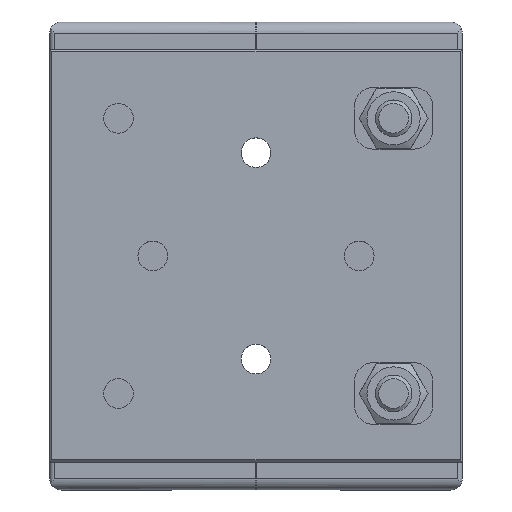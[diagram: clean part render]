
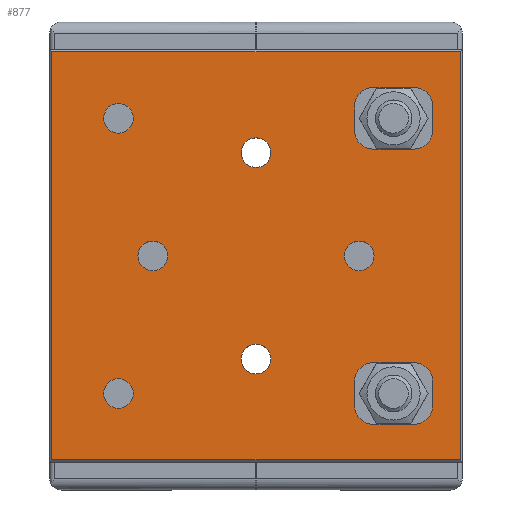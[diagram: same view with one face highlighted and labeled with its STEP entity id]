
A CAD part, top view. The second image highlights one B-rep face of the part: STEP entity #877.
In plain terms, the highlighted planar face has unit normal (0, 0, 1).
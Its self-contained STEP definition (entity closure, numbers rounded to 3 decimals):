
#229=CARTESIAN_POINT('',(34.5,-23.3,19.1));
#230=VERTEX_POINT('',#229);
#231=CARTESIAN_POINT('',(38.5,-27.3,19.1));
#232=VERTEX_POINT('',#231);
#233=CARTESIAN_POINT('',(34.5,-27.3,19.1));
#234=DIRECTION('',(0.0,0.0,1.0));
#235=DIRECTION('',(-1.0,0.0,0.0));
#236=AXIS2_PLACEMENT_3D('',#233,#234,#235);
#237=CIRCLE('',#236,4.0);
#238=EDGE_CURVE('',#230,#232,#237,.F.);
#271=CARTESIAN_POINT('',(38.5,-32.7,19.1));
#272=VERTEX_POINT('',#271);
#273=CARTESIAN_POINT('',(38.5,-27.3,19.1));
#274=DIRECTION('',(0.0,-1.0,0.0));
#275=VECTOR('',#274,5.4);
#276=LINE('',#273,#275);
#277=EDGE_CURVE('',#232,#272,#276,.T.);
#302=CARTESIAN_POINT('',(34.5,-36.7,19.1));
#303=VERTEX_POINT('',#302);
#304=CARTESIAN_POINT('',(34.5,-32.7,19.1));
#305=DIRECTION('',(0.0,0.0,1.0));
#306=DIRECTION('',(-1.0,0.0,0.0));
#307=AXIS2_PLACEMENT_3D('',#304,#305,#306);
#308=CIRCLE('',#307,4.0);
#309=EDGE_CURVE('',#272,#303,#308,.F.);
#335=CARTESIAN_POINT('',(25.5,-36.7,19.1));
#336=VERTEX_POINT('',#335);
#337=CARTESIAN_POINT('',(21.5,-32.7,19.1));
#338=VERTEX_POINT('',#337);
#339=CARTESIAN_POINT('',(25.5,-32.7,19.1));
#340=DIRECTION('',(0.0,0.0,1.0));
#341=DIRECTION('',(-1.0,0.0,0.0));
#342=AXIS2_PLACEMENT_3D('',#339,#340,#341);
#343=CIRCLE('',#342,4.0);
#344=EDGE_CURVE('',#336,#338,#343,.F.);
#377=CARTESIAN_POINT('',(21.5,-27.3,19.1));
#378=VERTEX_POINT('',#377);
#379=CARTESIAN_POINT('',(21.5,-32.7,19.1));
#380=DIRECTION('',(0.0,1.0,0.0));
#381=VECTOR('',#380,5.4);
#382=LINE('',#379,#381);
#383=EDGE_CURVE('',#338,#378,#382,.T.);
#408=CARTESIAN_POINT('',(25.5,-23.3,19.1));
#409=VERTEX_POINT('',#408);
#410=CARTESIAN_POINT('',(25.5,-27.3,19.1));
#411=DIRECTION('',(0.0,0.0,1.0));
#412=DIRECTION('',(-1.0,0.0,0.0));
#413=AXIS2_PLACEMENT_3D('',#410,#411,#412);
#414=CIRCLE('',#413,4.0);
#415=EDGE_CURVE('',#378,#409,#414,.F.);
#462=CARTESIAN_POINT('',(38.5,27.3,19.1));
#463=VERTEX_POINT('',#462);
#464=CARTESIAN_POINT('',(34.5,23.3,19.1));
#465=VERTEX_POINT('',#464);
#466=CARTESIAN_POINT('',(34.5,27.3,19.1));
#467=DIRECTION('',(0.0,0.0,1.0));
#468=DIRECTION('',(-1.0,0.0,0.0));
#469=AXIS2_PLACEMENT_3D('',#466,#467,#468);
#470=CIRCLE('',#469,4.0);
#471=EDGE_CURVE('',#463,#465,#470,.F.);
#504=CARTESIAN_POINT('',(38.5,32.7,19.1));
#505=VERTEX_POINT('',#504);
#506=CARTESIAN_POINT('',(38.5,32.7,19.1));
#507=DIRECTION('',(0.0,-1.0,0.0));
#508=VECTOR('',#507,5.4);
#509=LINE('',#506,#508);
#510=EDGE_CURVE('',#505,#463,#509,.T.);
#556=CARTESIAN_POINT('',(34.5,36.7,19.1));
#557=VERTEX_POINT('',#556);
#558=CARTESIAN_POINT('',(34.5,32.7,19.1));
#559=DIRECTION('',(0.0,0.0,1.0));
#560=DIRECTION('',(-1.0,0.0,0.0));
#561=AXIS2_PLACEMENT_3D('',#558,#559,#560);
#562=CIRCLE('',#561,4.0);
#563=EDGE_CURVE('',#557,#505,#562,.F.);
#610=CARTESIAN_POINT('',(21.5,32.7,19.1));
#611=VERTEX_POINT('',#610);
#612=CARTESIAN_POINT('',(25.5,36.7,19.1));
#613=VERTEX_POINT('',#612);
#614=CARTESIAN_POINT('',(25.5,32.7,19.1));
#615=DIRECTION('',(0.0,0.0,1.0));
#616=DIRECTION('',(-1.0,0.0,0.0));
#617=AXIS2_PLACEMENT_3D('',#614,#615,#616);
#618=CIRCLE('',#617,4.0);
#619=EDGE_CURVE('',#611,#613,#618,.F.);
#652=CARTESIAN_POINT('',(21.5,27.3,19.1));
#653=VERTEX_POINT('',#652);
#654=CARTESIAN_POINT('',(21.5,27.3,19.1));
#655=DIRECTION('',(0.0,1.0,0.0));
#656=VECTOR('',#655,5.4);
#657=LINE('',#654,#656);
#658=EDGE_CURVE('',#653,#611,#657,.T.);
#704=CARTESIAN_POINT('',(25.5,23.3,19.1));
#705=VERTEX_POINT('',#704);
#706=CARTESIAN_POINT('',(25.5,27.3,19.1));
#707=DIRECTION('',(0.0,0.0,1.0));
#708=DIRECTION('',(-1.0,0.0,0.0));
#709=AXIS2_PLACEMENT_3D('',#706,#707,#708);
#710=CIRCLE('',#709,4.0);
#711=EDGE_CURVE('',#705,#653,#710,.F.);
#732=CARTESIAN_POINT('',(0.,5.0,19.1));
#733=DIRECTION('',(0.0,0.0,1.0));
#734=DIRECTION('',(0.0,1.0,0.0));
#735=AXIS2_PLACEMENT_3D('',#732,#733,#734);
#736=PLANE('',#735);
#737=CARTESIAN_POINT('',(-44.5,-44.5,19.1));
#738=VERTEX_POINT('',#737);
#739=CARTESIAN_POINT('',(-44.5,44.5,19.1));
#740=VERTEX_POINT('',#739);
#741=CARTESIAN_POINT('',(-44.5,-44.5,19.1));
#742=DIRECTION('',(0.0,1.0,0.0));
#743=VECTOR('',#742,89.0);
#744=LINE('',#741,#743);
#745=EDGE_CURVE('',#738,#740,#744,.T.);
#746=ORIENTED_EDGE('',*,*,#745,.F.);
#747=CARTESIAN_POINT('',(44.5,-44.5,19.1));
#748=VERTEX_POINT('',#747);
#749=CARTESIAN_POINT('',(44.5,-44.5,19.1));
#750=DIRECTION('',(-1.0,0.0,0.0));
#751=VECTOR('',#750,89.);
#752=LINE('',#749,#751);
#753=EDGE_CURVE('',#748,#738,#752,.T.);
#754=ORIENTED_EDGE('',*,*,#753,.F.);
#755=CARTESIAN_POINT('',(44.5,44.5,19.1));
#756=VERTEX_POINT('',#755);
#757=CARTESIAN_POINT('',(44.5,44.5,19.1));
#758=DIRECTION('',(0.0,-1.0,0.0));
#759=VECTOR('',#758,89.);
#760=LINE('',#757,#759);
#761=EDGE_CURVE('',#756,#748,#760,.T.);
#762=ORIENTED_EDGE('',*,*,#761,.F.);
#763=CARTESIAN_POINT('',(-44.5,44.5,19.1));
#764=DIRECTION('',(1.0,0.0,0.0));
#765=VECTOR('',#764,89.);
#766=LINE('',#763,#765);
#767=EDGE_CURVE('',#740,#756,#766,.T.);
#768=ORIENTED_EDGE('',*,*,#767,.F.);
#769=EDGE_LOOP('',(#746,#754,#762,#768));
#770=FACE_OUTER_BOUND('',#769,.T.);
#771=CARTESIAN_POINT('',(34.5,-36.7,19.1));
#772=DIRECTION('',(-1.0,0.0,0.0));
#773=VECTOR('',#772,9.);
#774=LINE('',#771,#773);
#775=EDGE_CURVE('',#303,#336,#774,.T.);
#776=ORIENTED_EDGE('',*,*,#775,.T.);
#777=ORIENTED_EDGE('',*,*,#344,.T.);
#778=ORIENTED_EDGE('',*,*,#383,.T.);
#779=ORIENTED_EDGE('',*,*,#415,.T.);
#780=CARTESIAN_POINT('',(25.5,-23.3,19.1));
#781=DIRECTION('',(1.0,0.0,0.0));
#782=VECTOR('',#781,9.);
#783=LINE('',#780,#782);
#784=EDGE_CURVE('',#409,#230,#783,.T.);
#785=ORIENTED_EDGE('',*,*,#784,.T.);
#786=ORIENTED_EDGE('',*,*,#238,.T.);
#787=ORIENTED_EDGE('',*,*,#277,.T.);
#788=ORIENTED_EDGE('',*,*,#309,.T.);
#789=EDGE_LOOP('',(#776,#777,#778,#779,#785,#786,#787,#788));
#790=FACE_BOUND('',#789,.T.);
#791=CARTESIAN_POINT('',(25.5,36.7,19.1));
#792=DIRECTION('',(1.0,0.0,0.0));
#793=VECTOR('',#792,9.0);
#794=LINE('',#791,#793);
#795=EDGE_CURVE('',#613,#557,#794,.T.);
#796=ORIENTED_EDGE('',*,*,#795,.T.);
#797=ORIENTED_EDGE('',*,*,#563,.T.);
#798=ORIENTED_EDGE('',*,*,#510,.T.);
#799=ORIENTED_EDGE('',*,*,#471,.T.);
#800=CARTESIAN_POINT('',(34.5,23.3,19.1));
#801=DIRECTION('',(-1.0,0.0,0.0));
#802=VECTOR('',#801,9.);
#803=LINE('',#800,#802);
#804=EDGE_CURVE('',#465,#705,#803,.T.);
#805=ORIENTED_EDGE('',*,*,#804,.T.);
#806=ORIENTED_EDGE('',*,*,#711,.T.);
#807=ORIENTED_EDGE('',*,*,#658,.T.);
#808=ORIENTED_EDGE('',*,*,#619,.T.);
#809=EDGE_LOOP('',(#796,#797,#798,#799,#805,#806,#807,#808));
#810=FACE_BOUND('',#809,.T.);
#811=CARTESIAN_POINT('',(-3.233,-22.5,19.1));
#812=VERTEX_POINT('',#811);
#813=CARTESIAN_POINT('',(0.,-22.5,19.1));
#814=DIRECTION('',(0.0,0.0,1.0));
#815=DIRECTION('',(-1.0,0.0,0.0));
#816=AXIS2_PLACEMENT_3D('',#813,#814,#815);
#817=CIRCLE('',#816,3.233);
#818=EDGE_CURVE('',#812,#812,#817,.F.);
#819=ORIENTED_EDGE('',*,*,#818,.T.);
#820=EDGE_LOOP('',(#819));
#821=FACE_BOUND('',#820,.T.);
#822=CARTESIAN_POINT('',(19.267,0.0,19.1));
#823=VERTEX_POINT('',#822);
#824=CARTESIAN_POINT('',(22.5,0.,19.1));
#825=DIRECTION('',(0.0,0.0,1.0));
#826=DIRECTION('',(-1.0,0.0,0.0));
#827=AXIS2_PLACEMENT_3D('',#824,#825,#826);
#828=CIRCLE('',#827,3.233);
#829=EDGE_CURVE('',#823,#823,#828,.F.);
#830=ORIENTED_EDGE('',*,*,#829,.T.);
#831=EDGE_LOOP('',(#830));
#832=FACE_BOUND('',#831,.T.);
#833=CARTESIAN_POINT('',(-33.233,-30.0,19.1));
#834=VERTEX_POINT('',#833);
#835=CARTESIAN_POINT('',(-30.0,-30.0,19.1));
#836=DIRECTION('',(0.0,0.0,1.0));
#837=DIRECTION('',(-1.0,0.0,0.0));
#838=AXIS2_PLACEMENT_3D('',#835,#836,#837);
#839=CIRCLE('',#838,3.233);
#840=EDGE_CURVE('',#834,#834,#839,.F.);
#841=ORIENTED_EDGE('',*,*,#840,.T.);
#842=EDGE_LOOP('',(#841));
#843=FACE_BOUND('',#842,.T.);
#844=CARTESIAN_POINT('',(-25.733,0.0,19.1));
#845=VERTEX_POINT('',#844);
#846=CARTESIAN_POINT('',(-22.5,0.,19.1));
#847=DIRECTION('',(0.0,0.0,1.0));
#848=DIRECTION('',(-1.0,0.0,0.0));
#849=AXIS2_PLACEMENT_3D('',#846,#847,#848);
#850=CIRCLE('',#849,3.233);
#851=EDGE_CURVE('',#845,#845,#850,.F.);
#852=ORIENTED_EDGE('',*,*,#851,.T.);
#853=EDGE_LOOP('',(#852));
#854=FACE_BOUND('',#853,.T.);
#855=CARTESIAN_POINT('',(-3.233,22.5,19.1));
#856=VERTEX_POINT('',#855);
#857=CARTESIAN_POINT('',(0.,22.5,19.1));
#858=DIRECTION('',(0.0,0.0,1.0));
#859=DIRECTION('',(-1.0,0.0,0.0));
#860=AXIS2_PLACEMENT_3D('',#857,#858,#859);
#861=CIRCLE('',#860,3.233);
#862=EDGE_CURVE('',#856,#856,#861,.F.);
#863=ORIENTED_EDGE('',*,*,#862,.T.);
#864=EDGE_LOOP('',(#863));
#865=FACE_BOUND('',#864,.T.);
#866=CARTESIAN_POINT('',(-33.233,30.,19.1));
#867=VERTEX_POINT('',#866);
#868=CARTESIAN_POINT('',(-30.0,30.,19.1));
#869=DIRECTION('',(0.0,0.0,1.0));
#870=DIRECTION('',(-1.0,0.0,0.0));
#871=AXIS2_PLACEMENT_3D('',#868,#869,#870);
#872=CIRCLE('',#871,3.233);
#873=EDGE_CURVE('',#867,#867,#872,.F.);
#874=ORIENTED_EDGE('',*,*,#873,.T.);
#875=EDGE_LOOP('',(#874));
#876=FACE_BOUND('',#875,.T.);
#877=ADVANCED_FACE('',(#770,#790,#810,#821,#832,#843,#854,#865,#876),#736,.T.);
